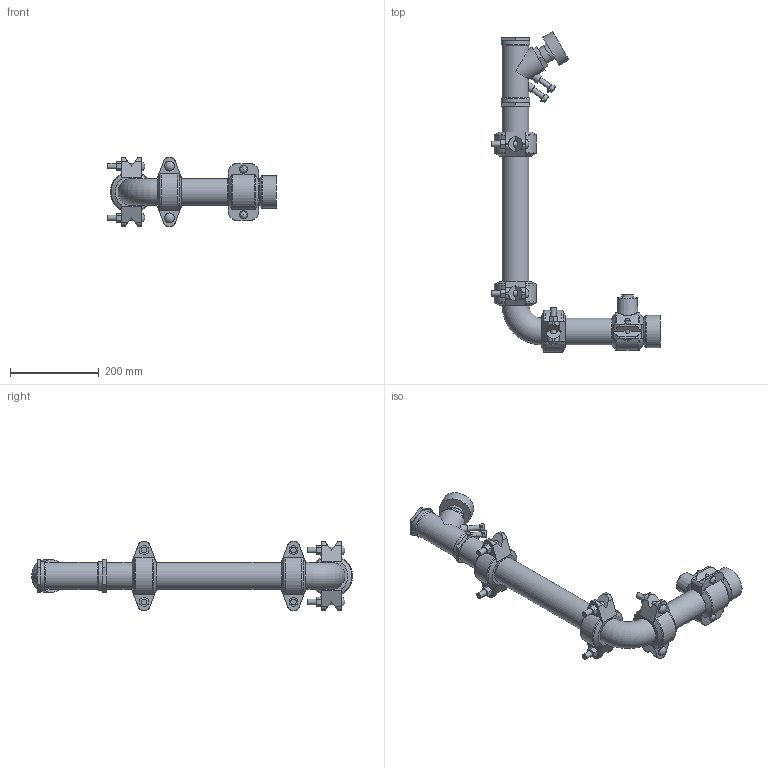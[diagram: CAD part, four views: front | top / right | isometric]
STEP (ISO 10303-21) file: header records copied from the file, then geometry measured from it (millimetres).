
FILE_DESCRIPTION(/* description */ ('VIC RVI SINGLE COIL AHU DROP LOW PROFILE SERIES 385I (OGSxFPT)','CAx-IF Rec.Pracs.---Representation and Presentation of Product Manufacturing Information (PMI)---4.0---2014-10-13'),/* implementation_level */ '2;1');
FILE_NAME(/* name */ 'C:\Users\kkamble\AppData\Roaming\Autodesk\ApplicationPlugins\Victaulic.Temp\A812\Victaulic_IPS_RVI_Single Coil_Low Profile_Series 385I (OGSxFPT)_02.0x02.0 (50x50).stp',/* time_stamp */ '2021-03-17T13:01:58+06:00',/* author */ ('Vjadhav'),/* organization */ ('Victaulic'),/* preprocessor_version */ 'ST-DEVELOPER v17.2',/* originating_system */ 'Autodesk Inventor 2019',/* authorisation */ '');
FILE_SCHEMA (('AP242_MANAGED_MODEL_BASED_3D_ENGINEERING_MIM_LF { 1 0 10303 442 1 1 4 }'));
Length unit declared in the file: inch
Products named in the file (9): 385I-02.0x02.0; 080-02.0; 072-02.0x0.75; Pipe-02.0; 010-02.0; Pipe_(9 1/4")-02.0; 177N-02.0; 040-02.0; 787H-02.0
Assembly tree (10 placements, depth 2):
  385I-02.0x02.0
    080-02.0
    072-02.0x0.75
    Pipe-02.0
    177N-02.0  x3
    010-02.0
    Pipe_(9 1/4")-02.0
    040-02.0
    787H-02.0
Bounding box: 381 x 724.61 x 155.76 mm (x, y, z)
Volume: 2183905.6 mm3; surface area: 600423.7 mm2
Topology: 12 solids, 12 shells, 499 faces, 1344 edges, 899 vertices
Faces by surface type: plane 294, cylinder 151, torus 22, cone 20, bspline 6, sphere 6
Full cylindrical faces by diameter (mm): 7.62 x4, 11.43 x4, 12.7 x6, 15.24 x2, 17.78 x2, 19.05 x2, 20.93 x1, 22.225 x6, 26.67 x1, 38.1 x1, 39.37 x1, 47.625 x3, 52.502 x7, 57.15 x8, 60.325 x24, 65.075 x2, 73.025 x1, 73.66 x1
Entity records: 11607 total; most frequent: CARTESIAN_POINT 2525, DIRECTION 1846, ORIENTED_EDGE 1710, EDGE_CURVE 855, AXIS2_PLACEMENT_3D 714, VERTEX_POINT 577, LINE 418, VECTOR 418
